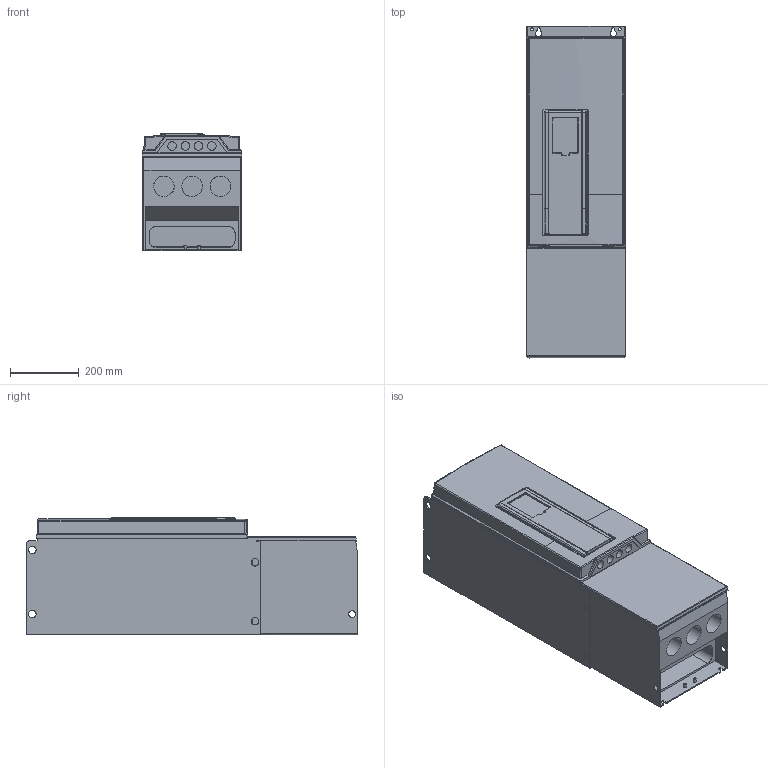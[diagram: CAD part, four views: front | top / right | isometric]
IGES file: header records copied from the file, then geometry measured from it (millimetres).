
Global section: file name: C:\WORK\FILT0267\arola\.start\MR8_Simplified_Mod_IP54.igs; preprocessor: I-DEAS 3D IGES Translator 13; date: 20090320.143041; units: millimetre
Bounding box: 290.54 x 965.7 x 343.03 mm (x, y, z)
Volume: 76703809.8 mm3; surface area: 1853108 mm2
Topology: 1 solids, 2 shells, 473 faces, 1299 edges, 834 vertices
Faces by surface type: bspline 473
